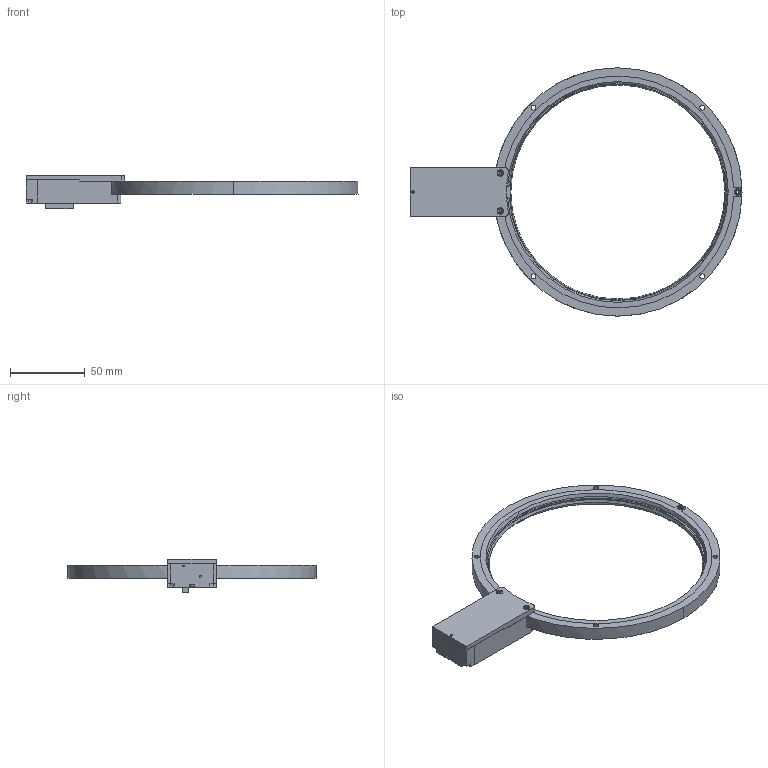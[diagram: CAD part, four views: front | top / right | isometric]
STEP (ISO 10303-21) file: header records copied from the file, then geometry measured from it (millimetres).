
FILE_DESCRIPTION (( 'STEP AP214' ), '1' );
FILE_NAME ('I0024-1003-00-A.STEP', '2025-06-27T05:53:23', ( '' ), ( '' ), 'SwSTEP 2.0', 'SolidWorks 2022', '' );
FILE_SCHEMA (( 'AUTOMOTIVE_DESIGN' ));
Length unit declared in the file: millimetre
Products named in the file (1): I0024-1003-00-A
Bounding box: 222.6 x 166.5 x 22.65 mm (x, y, z)
Surface area: 39698.2 mm2 (no closed solid volume)
Topology: 0 solids, 16 shells, 167 faces, 546 edges, 388 vertices
Faces by surface type: plane 65, cylinder 61, cone 28, torus 8, bspline 5
Entity records: 6369 total; most frequent: CARTESIAN_POINT 1316, DIRECTION 1040, ORIENTED_EDGE 868, EDGE_CURVE 546, VERTEX_POINT 388, AXIS2_PLACEMENT_3D 384, LINE 272, VECTOR 272
